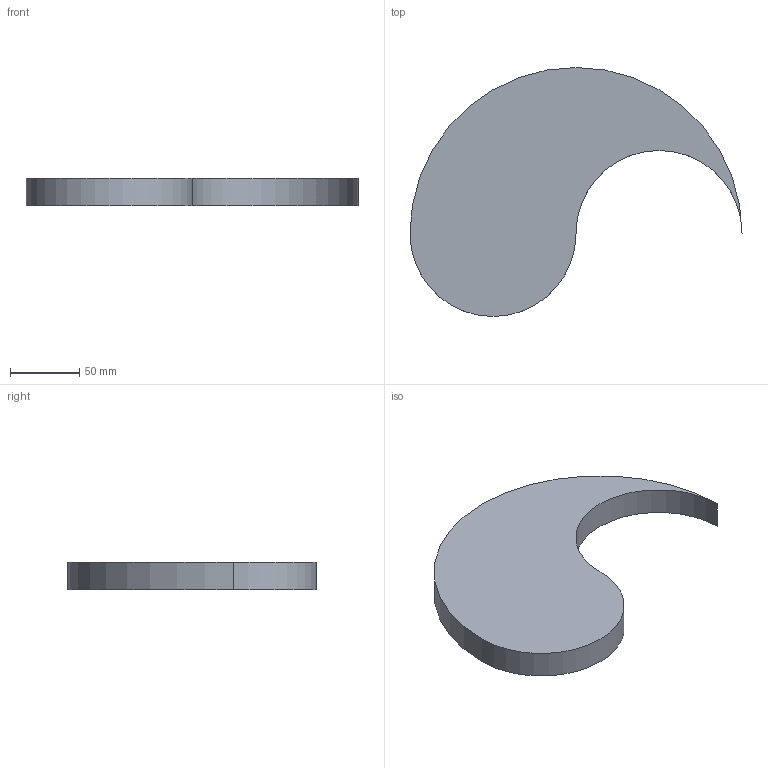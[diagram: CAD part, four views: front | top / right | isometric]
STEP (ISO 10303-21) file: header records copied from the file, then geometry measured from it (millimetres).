
FILE_DESCRIPTION(/* description */ (''),/* implementation_level */ '2;1');
FILE_NAME(/* name */ 'Zen_Yin_Yang_Pot_Organic v4.step',/* time_stamp */ '2023-10-30T15:52:51+01:00',/* author */ (''),/* organization */ (''),/* preprocessor_version */ 'ST-DEVELOPER v20',/* originating_system */ 'Autodesk Translation Framework v12.14.0.127',/* authorisation */ '');
FILE_SCHEMA (('AUTOMOTIVE_DESIGN { 1 0 10303 214 3 1 1 }'));
Length unit declared in the file: millimetre
Products named in the file (1): Zen_Yin_Yang_Pot_Organic
Bounding box: 240 x 180 x 20 mm (x, y, z)
Volume: 233061.9 mm3; surface area: 70747.8 mm2
Topology: 1 solids, 1 shells, 11 faces, 22 edges, 14 vertices
Faces by surface type: cylinder 7, plane 4
Entity records: 327 total; most frequent: DIRECTION 60, CARTESIAN_POINT 48, ORIENTED_EDGE 44, AXIS2_PLACEMENT_3D 26, EDGE_CURVE 22, CIRCLE 14, VERTEX_POINT 14, EDGE_LOOP 12
